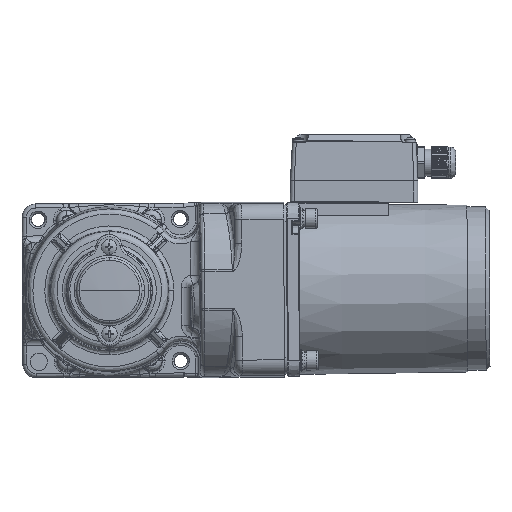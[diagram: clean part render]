
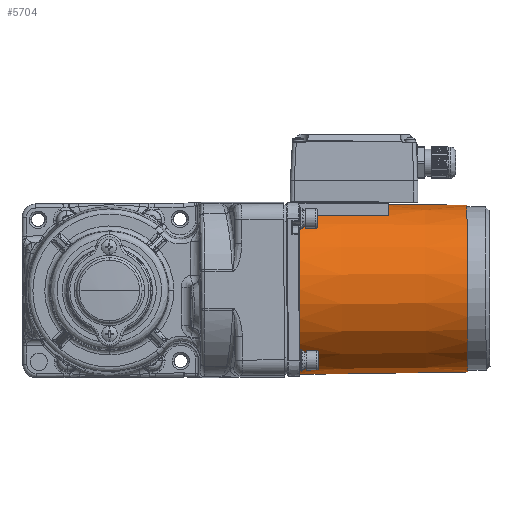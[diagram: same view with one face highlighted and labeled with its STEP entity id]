
A CAD part, left-side view. The second image highlights one B-rep face of the part: STEP entity #5704.
In plain terms, the highlighted conical face has half-angle 0.5 degrees and reference radius 44 mm.
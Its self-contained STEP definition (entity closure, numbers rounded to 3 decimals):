
#1308 = DIRECTION ( 'NONE',  ( 0.009, 0., 1. ) ) ;
#2226 = CARTESIAN_POINT ( 'NONE',  ( 52.445, -26.557, 169.5 ) ) ;
#3822 = CARTESIAN_POINT ( 'NONE',  ( 52.259, -26.066, 123.087 ) ) ;
#5123 = DIRECTION ( 'NONE',  ( 0., 0., 1. ) ) ;
#5704 = ADVANCED_FACE ( 'NONE', ( #82779 ), #56215, .T. ) ;
#5944 = CARTESIAN_POINT ( 'NONE',  ( -29.66, -4.557, 169.5 ) ) ;
#6407 = VERTEX_POINT ( 'NONE', #74190 ) ;
#11136 = ORIENTED_EDGE ( 'NONE', *, *, #48160, .T. ) ;
#11333 = ORIENTED_EDGE ( 'NONE', *, *, #45612, .T. ) ;
#12339 = CARTESIAN_POINT ( 'NONE',  ( 52.228, -26.122, 123.163 ) ) ;
#15077 = VERTEX_POINT ( 'NONE', #61545 ) ;
#15380 = VERTEX_POINT ( 'NONE', #63093 ) ;
#18166 = DIRECTION ( 'NONE',  ( -0.009, 0., 1. ) ) ;
#18688 = CARTESIAN_POINT ( 'NONE',  ( 52.367, -26.423, 154.099 ) ) ;
#19552 = CARTESIAN_POINT ( 'NONE',  ( 14.34, -4.557, 82.5 ) ) ;
#20271 = CARTESIAN_POINT ( 'NONE',  ( 52.327, -25.946, 123.012 ) ) ;
#20797 = AXIS2_PLACEMENT_3D ( 'NONE', #19552, #53597, #53027 ) ;
#22287 = VERTEX_POINT ( 'NONE', #5944 ) ;
#26231 = EDGE_CURVE ( 'NONE', #103484, #22287, #78255, .T. ) ;
#27794 = CARTESIAN_POINT ( 'NONE',  ( -29.66, -4.557, 169.5 ) ) ;
#27850 = ORIENTED_EDGE ( 'NONE', *, *, #26231, .F. ) ;
#29345 = CARTESIAN_POINT ( 'NONE',  ( 52.215, -26.146, 123.22 ) ) ;
#32359 = B_SPLINE_CURVE_WITH_KNOTS ( 'NONE', 3,
 ( #38391, #38943, #29345, #12339, #72957, #97929, #89997, #48574, #3822, #107007, #63930, #107571, #55436, #20271, #65587, #73507 ),
 .UNSPECIFIED., .F., .F.,
 ( 4, 2, 2, 1, 1, 2, 2, 2, 4 ),
 ( 0., 0.25, 0.375, 0.438, 0.469, 0.484, 0.5, 0.75, 1. ),
 .UNSPECIFIED. ) ;
#33492 = VECTOR ( 'NONE', #1308, 1000. ) ;
#36223 = DIRECTION ( 'NONE',  ( 1., 0., 0. ) ) ;
#38391 = CARTESIAN_POINT ( 'NONE',  ( 52.211, -26.154, 123.297 ) ) ;
#38943 = CARTESIAN_POINT ( 'NONE',  ( 52.211, -26.154, 123.259 ) ) ;
#41608 = CARTESIAN_POINT ( 'NONE',  ( 52.445, -26.557, 169.5 ) ) ;
#44998 = DIRECTION ( 'NONE',  ( 1., 0., 0. ) ) ;
#45612 = EDGE_CURVE ( 'NONE', #15077, #74483, #75690, .T. ) ;
#48160 = EDGE_CURVE ( 'NONE', #93503, #6407, #81572, .T. ) ;
#48574 = CARTESIAN_POINT ( 'NONE',  ( 52.256, -26.071, 123.093 ) ) ;
#50756 = CARTESIAN_POINT ( 'NONE',  ( 14.34, -4.557, 123. ) ) ;
#53027 = DIRECTION ( 'NONE',  ( 1., 0., 0. ) ) ;
#53597 = DIRECTION ( 'NONE',  ( 0., 0., 1. ) ) ;
#55436 = CARTESIAN_POINT ( 'NONE',  ( 52.289, -26.014, 123.044 ) ) ;
#56215 = CONICAL_SURFACE ( 'NONE', #108725, 44., 0.009 ) ;
#60688 = CARTESIAN_POINT ( 'NONE',  ( 52.289, -26.288, 138.698 ) ) ;
#61545 = CARTESIAN_POINT ( 'NONE',  ( 52.211, -26.154, 123.297 ) ) ;
#62311 = CARTESIAN_POINT ( 'NONE',  ( 57.934, -4.557, 123. ) ) ;
#63093 = CARTESIAN_POINT ( 'NONE',  ( 57.58, -4.557, 82.5 ) ) ;
#63930 = CARTESIAN_POINT ( 'NONE',  ( 52.263, -26.059, 123.081 ) ) ;
#64257 = CARTESIAN_POINT ( 'NONE',  ( 14.34, -4.557, 169.5 ) ) ;
#65587 = CARTESIAN_POINT ( 'NONE',  ( 52.35, -25.903, 123. ) ) ;
#68314 = DIRECTION ( 'NONE',  ( 1., 0., 0. ) ) ;
#69690 = CIRCLE ( 'NONE', #20797, 43.241 ) ;
#72674 = CARTESIAN_POINT ( 'NONE',  ( 58.34, -4.557, 169.5 ) ) ;
#72957 = CARTESIAN_POINT ( 'NONE',  ( 52.234, -26.112, 123.145 ) ) ;
#73507 = CARTESIAN_POINT ( 'NONE',  ( 52.378, -25.854, 123. ) ) ;
#74190 = CARTESIAN_POINT ( 'NONE',  ( 52.378, -25.854, 123. ) ) ;
#74483 = VERTEX_POINT ( 'NONE', #41608 ) ;
#74715 = EDGE_CURVE ( 'NONE', #15380, #93503, #80650, .T. ) ;
#75690 = B_SPLINE_CURVE_WITH_KNOTS ( 'NONE', 3,
 ( #79898, #60688, #18688, #2226 ),
 .UNSPECIFIED., .F., .F.,
 ( 4, 4 ),
 ( 0., 0.046 ),
 .UNSPECIFIED. ) ;
#75944 = CARTESIAN_POINT ( 'NONE',  ( 14.34, -4.557, 169.5 ) ) ;
#76380 = ORIENTED_EDGE ( 'NONE', *, *, #74715, .T. ) ;
#76996 = CARTESIAN_POINT ( 'NONE',  ( -28.901, -4.557, 82.5 ) ) ;
#77609 = ORIENTED_EDGE ( 'NONE', *, *, #86065, .F. ) ;
#78255 = LINE ( 'NONE', #27794, #96662 ) ;
#79898 = CARTESIAN_POINT ( 'NONE',  ( 52.211, -26.154, 123.297 ) ) ;
#80456 = ORIENTED_EDGE ( 'NONE', *, *, #90935, .T. ) ;
#80650 = LINE ( 'NONE', #72674, #33492 ) ;
#80915 = CIRCLE ( 'NONE', #82768, 44. ) ;
#81572 = CIRCLE ( 'NONE', #85216, 43.594 ) ;
#82768 = AXIS2_PLACEMENT_3D ( 'NONE', #64257, #88643, #44998 ) ;
#82779 = FACE_OUTER_BOUND ( 'NONE', #96147, .T. ) ;
#85216 = AXIS2_PLACEMENT_3D ( 'NONE', #50756, #92691, #68314 ) ;
#86065 = EDGE_CURVE ( 'NONE', #15077, #6407, #32359, .T. ) ;
#88643 = DIRECTION ( 'NONE',  ( 0., 0., -1. ) ) ;
#89997 = CARTESIAN_POINT ( 'NONE',  ( 52.249, -26.084, 123.107 ) ) ;
#90935 = EDGE_CURVE ( 'NONE', #74483, #22287, #80915, .T. ) ;
#92691 = DIRECTION ( 'NONE',  ( 0., 0., -1. ) ) ;
#93503 = VERTEX_POINT ( 'NONE', #62311 ) ;
#95505 = ORIENTED_EDGE ( 'NONE', *, *, #101969, .T. ) ;
#96147 = EDGE_LOOP ( 'NONE', ( #27850, #95505, #76380, #11136, #77609, #11333, #80456 ) ) ;
#96662 = VECTOR ( 'NONE', #18166, 1000. ) ;
#97929 = CARTESIAN_POINT ( 'NONE',  ( 52.244, -26.094, 123.119 ) ) ;
#101969 = EDGE_CURVE ( 'NONE', #103484, #15380, #69690, .T. ) ;
#103484 = VERTEX_POINT ( 'NONE', #76996 ) ;
#107007 = CARTESIAN_POINT ( 'NONE',  ( 52.261, -26.062, 123.084 ) ) ;
#107571 = CARTESIAN_POINT ( 'NONE',  ( 52.274, -26.039, 123.063 ) ) ;
#108725 = AXIS2_PLACEMENT_3D ( 'NONE', #75944, #5123, #36223 ) ;
